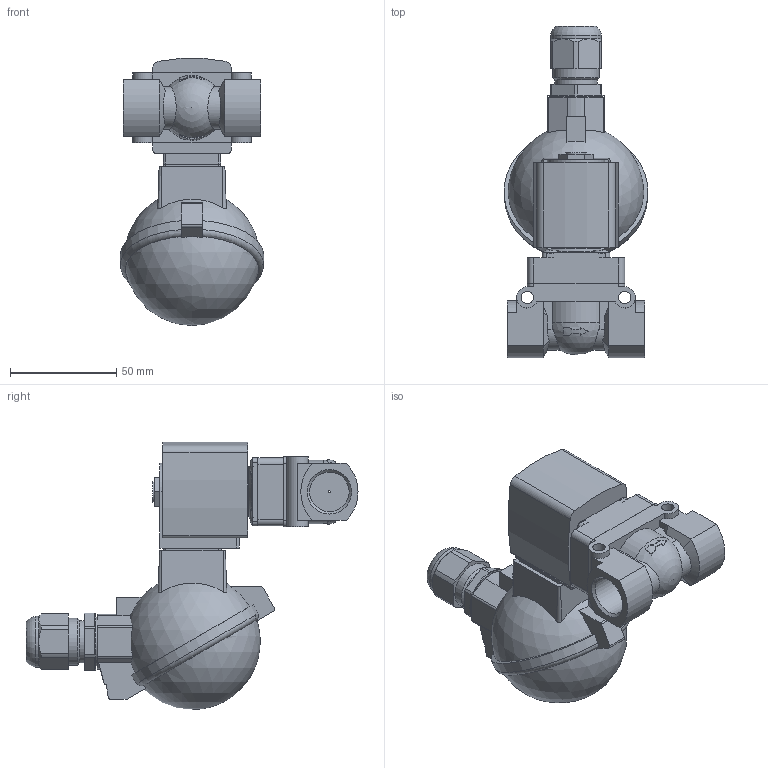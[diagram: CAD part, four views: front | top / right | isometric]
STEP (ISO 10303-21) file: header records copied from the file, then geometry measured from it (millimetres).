
FILE_DESCRIPTION(/* description */ ('STEP AP214'),/* implementation_level */ '2;1');
FILE_NAME(/* name */ '5404-349293-Servo-assisted_2_2_way_piston_valve',/* time_stamp */ '2024-02-29T11:28:48+01:00',/* author */ ('License CC BY-ND 4.0'),/* organization */ ('CADENAS'),/* preprocessor_version */ 'ST-DEVELOPER v19.3',/* originating_system */ 'PARTsolutions',/* authorisation */ ' ');
FILE_SCHEMA (('AUTOMOTIVE_DESIGN {1 0 10303 214 3 1 1}'));
Length unit declared in the file: millimetre
Products named in the file (4): 5404-349293-Servo-assisted 2/2 way piston valve; 5282g-8412MS000-2/2-Wege-Magnetventil_Gehaeuse; 5282d-12MSAU3N-2/2-Wege-Magnetventil_Deckel; AC10ex-6ATEXKLK_MB05Plan-Coil
Assembly tree (3 placements, depth 2):
  5404-349293-Servo-assisted 2/2 way piston valve
    5282g-8412MS000-2/2-Wege-Magnetventil_Gehaeuse
    5282d-12MSAU3N-2/2-Wege-Magnetventil_Deckel
    AC10ex-6ATEXKLK_MB05Plan-Coil
Bounding box: 67.86 x 156.6 x 126.03 mm (x, y, z)
Volume: 314348.7 mm3; surface area: 52416.4 mm2
Topology: 3 solids, 3 shells, 284 faces, 730 edges, 476 vertices
Faces by surface type: plane 157, cylinder 84, cone 28, torus 8, sphere 7
Full cylindrical faces by diameter (mm): 1 x1, 3.242 x1, 4 x4, 5.8 x2, 7.5 x4, 7.6 x4, 9.74 x1, 14 x1, 17.294 x1, 18.631 x2, 20 x1, 21 x1, 22 x1, 23 x1, 24 x1, 27 x1
Entity records: 9559 total; most frequent: CARTESIAN_POINT 1642, DIRECTION 1486, ORIENTED_EDGE 1344, EDGE_CURVE 672, AXIS2_PLACEMENT_3D 582, VERTEX_POINT 460, EDGE_LOOP 356, FACE_BOUND 356
